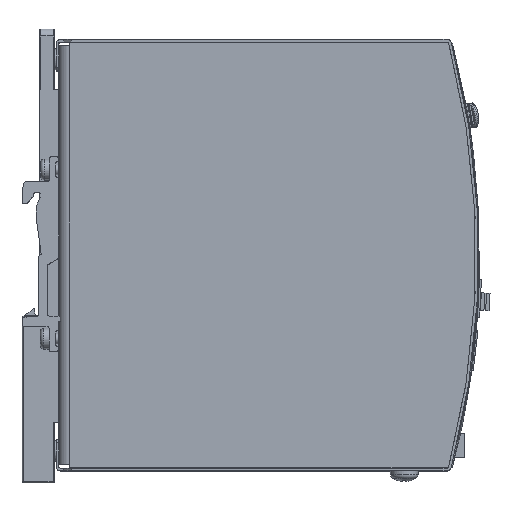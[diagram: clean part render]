
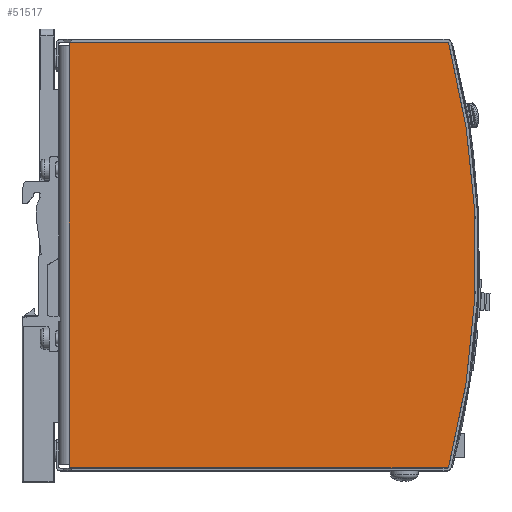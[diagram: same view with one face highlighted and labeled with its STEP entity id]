
A CAD part, top view. The second image highlights one B-rep face of the part: STEP entity #51517.
In plain terms, the highlighted planar face has unit normal (0, 0, 1) as drawn and (-1, 0, 0) by its records, which use the part's own axes.
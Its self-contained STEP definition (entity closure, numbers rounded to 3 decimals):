
#51059=CARTESIAN_POINT('',(-32.5,60.15,-1.6));
#51060=VERTEX_POINT('',#51059);
#51067=CARTESIAN_POINT('',(-32.5,60.15,-1.5));
#51068=VERTEX_POINT('',#51067);
#51069=CARTESIAN_POINT('',(-32.5,60.15,-1.5));
#51070=DIRECTION('',(0.0,0.0,-1.0));
#51071=VECTOR('',#51070,0.1);
#51072=LINE('',#51069,#51071);
#51073=EDGE_CURVE('',#51068,#51060,#51072,.T.);
#51106=CARTESIAN_POINT('',(-32.5,61.15,-1.6));
#51107=VERTEX_POINT('',#51106);
#51114=CARTESIAN_POINT('',(-32.5,60.15,-1.6));
#51115=DIRECTION('',(0.0,1.0,0.0));
#51116=VECTOR('',#51115,1.);
#51117=LINE('',#51114,#51116);
#51118=EDGE_CURVE('',#51060,#51107,#51117,.T.);
#51170=CARTESIAN_POINT('',(-32.5,-60.15,-1.6));
#51171=VERTEX_POINT('',#51170);
#51178=CARTESIAN_POINT('',(-32.5,-61.15,-1.6));
#51179=VERTEX_POINT('',#51178);
#51180=CARTESIAN_POINT('',(-32.5,-61.15,-1.6));
#51181=DIRECTION('',(0.0,1.0,0.0));
#51182=VECTOR('',#51181,1.);
#51183=LINE('',#51180,#51182);
#51184=EDGE_CURVE('',#51179,#51171,#51183,.T.);
#51219=CARTESIAN_POINT('',(-32.5,-60.15,-1.5));
#51220=VERTEX_POINT('',#51219);
#51228=CARTESIAN_POINT('',(-32.5,-60.15,-1.6));
#51229=DIRECTION('',(0.0,0.0,1.0));
#51230=VECTOR('',#51229,0.1);
#51231=LINE('',#51228,#51230);
#51232=EDGE_CURVE('',#51171,#51220,#51231,.T.);
#51339=CARTESIAN_POINT('',(-32.5,61.15,-110.193));
#51340=VERTEX_POINT('',#51339);
#51347=CARTESIAN_POINT('',(-32.5,61.15,-1.6));
#51348=DIRECTION('',(0.0,0.0,-1.0));
#51349=VECTOR('',#51348,108.593);
#51350=LINE('',#51347,#51349);
#51351=EDGE_CURVE('',#51107,#51340,#51350,.T.);
#51460=CARTESIAN_POINT('',(-32.5,60.15,-1.5));
#51461=DIRECTION('',(0.0,-1.0,0.0));
#51462=VECTOR('',#51461,120.3);
#51463=LINE('',#51460,#51462);
#51464=EDGE_CURVE('',#51068,#51220,#51463,.T.);
#51471=CARTESIAN_POINT('',(-32.5,-61.15,1.5));
#51472=DIRECTION('',(-1.0,0.0,0.0));
#51473=DIRECTION('',(0.0,0.0,1.0));
#51474=AXIS2_PLACEMENT_3D('',#51471,#51472,#51473);
#51475=PLANE('',#51474);
#51476=ORIENTED_EDGE('',*,*,#51073,.T.);
#51477=ORIENTED_EDGE('',*,*,#51118,.T.);
#51478=ORIENTED_EDGE('',*,*,#51351,.T.);
#51479=CARTESIAN_POINT('',(-32.5,60.777,-110.677));
#51480=VERTEX_POINT('',#51479);
#51481=CARTESIAN_POINT('',(-32.5,60.65,-110.193));
#51482=DIRECTION('',(1.0,0.0,0.0));
#51483=DIRECTION('',(0.0,0.792,-0.611));
#51484=AXIS2_PLACEMENT_3D('',#51481,#51482,#51483);
#51485=CIRCLE('',#51484,0.5);
#51486=EDGE_CURVE('',#51480,#51340,#51485,.T.);
#51487=ORIENTED_EDGE('',*,*,#51486,.F.);
#51488=CARTESIAN_POINT('',(-32.5,-60.777,-110.677));
#51489=VERTEX_POINT('',#51488);
#51490=CARTESIAN_POINT('',(-32.5,0.,121.5));
#51491=DIRECTION('',(-1.0,0.0,0.0));
#51492=DIRECTION('',(0.0,0.0,1.0));
#51493=AXIS2_PLACEMENT_3D('',#51490,#51491,#51492);
#51494=CIRCLE('',#51493,240.0);
#51495=EDGE_CURVE('',#51480,#51489,#51494,.T.);
#51496=ORIENTED_EDGE('',*,*,#51495,.T.);
#51497=CARTESIAN_POINT('',(-32.5,-61.15,-110.193));
#51498=VERTEX_POINT('',#51497);
#51499=CARTESIAN_POINT('',(-32.5,-60.65,-110.193));
#51500=DIRECTION('',(1.0,0.0,0.0));
#51501=DIRECTION('',(0.0,-0.792,-0.611));
#51502=AXIS2_PLACEMENT_3D('',#51499,#51500,#51501);
#51503=CIRCLE('',#51502,0.5);
#51504=EDGE_CURVE('',#51498,#51489,#51503,.T.);
#51505=ORIENTED_EDGE('',*,*,#51504,.F.);
#51506=CARTESIAN_POINT('',(-32.5,-61.15,-110.193));
#51507=DIRECTION('',(0.0,0.0,1.0));
#51508=VECTOR('',#51507,108.593);
#51509=LINE('',#51506,#51508);
#51510=EDGE_CURVE('',#51498,#51179,#51509,.T.);
#51511=ORIENTED_EDGE('',*,*,#51510,.T.);
#51512=ORIENTED_EDGE('',*,*,#51184,.T.);
#51513=ORIENTED_EDGE('',*,*,#51232,.T.);
#51514=ORIENTED_EDGE('',*,*,#51464,.F.);
#51515=EDGE_LOOP('',(#51476,#51477,#51478,#51487,#51496,#51505,#51511,#51512,#51513,#51514));
#51516=FACE_OUTER_BOUND('',#51515,.T.);
#51517=ADVANCED_FACE('',(#51516),#51475,.T.);
